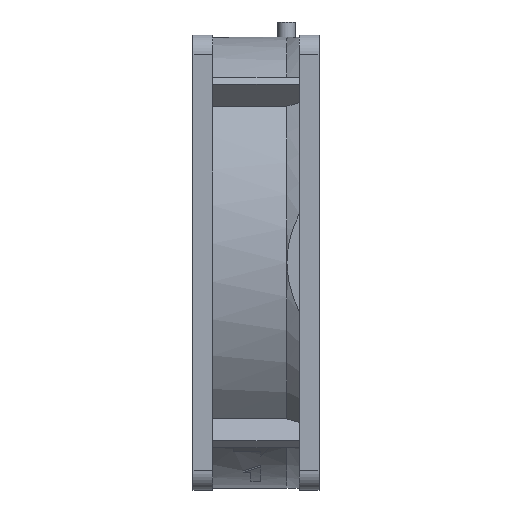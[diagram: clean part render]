
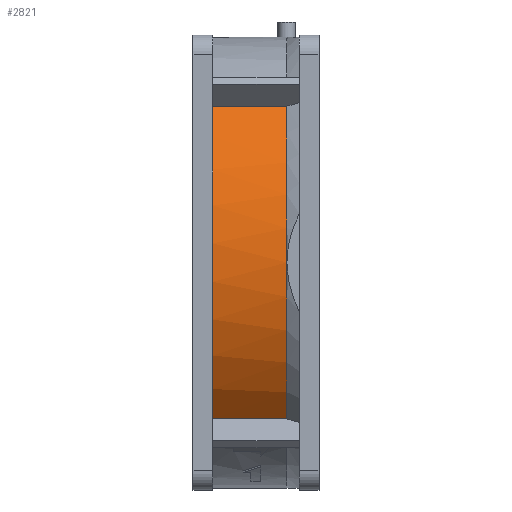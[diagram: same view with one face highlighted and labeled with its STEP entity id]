
A CAD part, left-side view. The second image highlights one B-rep face of the part: STEP entity #2821.
In plain terms, the highlighted cylindrical face has radius 45.6 mm (diameter 91.2 mm), a partial arc.
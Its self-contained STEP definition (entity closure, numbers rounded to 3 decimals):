
#52 = DIRECTION ( 'NONE',  ( 0., 0., -1. ) ) ;
#76 = ORIENTED_EDGE ( 'NONE', *, *, #4336, .F. ) ;
#821 = EDGE_CURVE ( 'NONE', #4204, #7110, #1576, .T. ) ;
#845 = CIRCLE ( 'NONE', #9157, 45.6 ) ;
#877 = CARTESIAN_POINT ( 'NONE',  ( -32.858, 4., -31.618 ) ) ;
#882 = DIRECTION ( 'NONE',  ( 0., 0., -1. ) ) ;
#1014 = CARTESIAN_POINT ( 'NONE',  ( 0., 6.5, 0. ) ) ;
#1403 = ORIENTED_EDGE ( 'NONE', *, *, #821, .F. ) ;
#1575 = FACE_OUTER_BOUND ( 'NONE', #9263, .T. ) ;
#1576 = CIRCLE ( 'NONE', #2067, 45.6 ) ;
#1596 = LINE ( 'NONE', #877, #4211 ) ;
#1916 = ORIENTED_EDGE ( 'NONE', *, *, #8871, .F. ) ;
#1942 = DIRECTION ( 'NONE',  ( 0., 1., 0. ) ) ;
#2067 = AXIS2_PLACEMENT_3D ( 'NONE', #3224, #3275, #882 ) ;
#2269 = CARTESIAN_POINT ( 'NONE',  ( -32.858, 21.5, 31.618 ) ) ;
#2484 = DIRECTION ( 'NONE',  ( 0., 1., 0. ) ) ;
#2627 = AXIS2_PLACEMENT_3D ( 'NONE', #1014, #7096, #52 ) ;
#2736 = DIRECTION ( 'NONE',  ( 0., -1., 0. ) ) ;
#2821 = ADVANCED_FACE ( 'NONE', ( #1575 ), #4682, .T. ) ;
#3224 = CARTESIAN_POINT ( 'NONE',  ( 0., 6.5, 0. ) ) ;
#3275 = DIRECTION ( 'NONE',  ( 0., -1., 0. ) ) ;
#3327 = AXIS2_PLACEMENT_3D ( 'NONE', #3353, #2736, #4223 ) ;
#3353 = CARTESIAN_POINT ( 'NONE',  ( 0., 22.375, 0. ) ) ;
#4204 = VERTEX_POINT ( 'NONE', #4952 ) ;
#4211 = VECTOR ( 'NONE', #2484, 1000. ) ;
#4223 = DIRECTION ( 'NONE',  ( 0., 0., -1. ) ) ;
#4336 = EDGE_CURVE ( 'NONE', #7110, #6343, #1596, .T. ) ;
#4555 = DIRECTION ( 'NONE',  ( 0., -1., 0. ) ) ;
#4682 = CYLINDRICAL_SURFACE ( 'NONE', #3327, 45.6 ) ;
#4952 = CARTESIAN_POINT ( 'NONE',  ( -45.6, 6.5, 0. ) ) ;
#5102 = CARTESIAN_POINT ( 'NONE',  ( -32.858, 6.5, 31.618 ) ) ;
#5317 = CARTESIAN_POINT ( 'NONE',  ( -32.858, 4., 31.618 ) ) ;
#5747 = ORIENTED_EDGE ( 'NONE', *, *, #8196, .F. ) ;
#5972 = CARTESIAN_POINT ( 'NONE',  ( 0., 21.5, 0. ) ) ;
#6106 = LINE ( 'NONE', #5317, #8488 ) ;
#6343 = VERTEX_POINT ( 'NONE', #8738 ) ;
#6751 = DIRECTION ( 'NONE',  ( 0., 0., -1. ) ) ;
#6780 = VERTEX_POINT ( 'NONE', #5102 ) ;
#7096 = DIRECTION ( 'NONE',  ( 0., -1., 0. ) ) ;
#7110 = VERTEX_POINT ( 'NONE', #8959 ) ;
#8181 = CIRCLE ( 'NONE', #2627, 45.6 ) ;
#8196 = EDGE_CURVE ( 'NONE', #6780, #4204, #8181, .T. ) ;
#8488 = VECTOR ( 'NONE', #4555, 1000. ) ;
#8738 = CARTESIAN_POINT ( 'NONE',  ( -32.858, 21.5, -31.618 ) ) ;
#8871 = EDGE_CURVE ( 'NONE', #9904, #6780, #6106, .T. ) ;
#8959 = CARTESIAN_POINT ( 'NONE',  ( -32.858, 6.5, -31.618 ) ) ;
#9157 = AXIS2_PLACEMENT_3D ( 'NONE', #5972, #1942, #6751 ) ;
#9263 = EDGE_LOOP ( 'NONE', ( #76, #1403, #5747, #1916, #9393 ) ) ;
#9393 = ORIENTED_EDGE ( 'NONE', *, *, #9512, .F. ) ;
#9512 = EDGE_CURVE ( 'NONE', #6343, #9904, #845, .T. ) ;
#9904 = VERTEX_POINT ( 'NONE', #2269 ) ;
